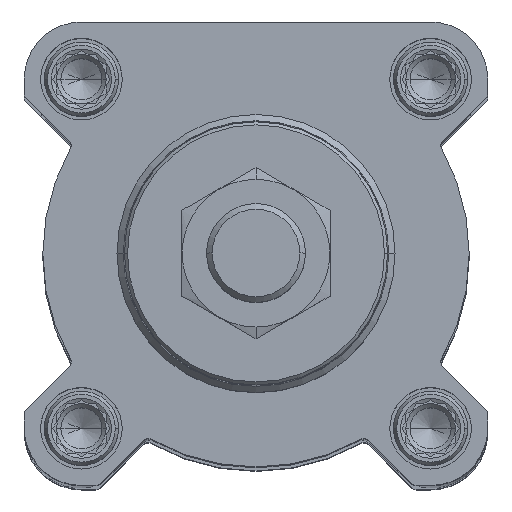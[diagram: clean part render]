
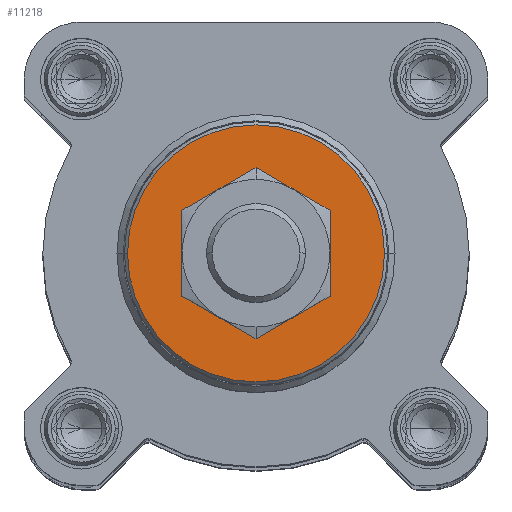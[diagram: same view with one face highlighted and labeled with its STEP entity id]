
A CAD part, top view. The second image highlights one B-rep face of the part: STEP entity #11218.
In plain terms, the highlighted planar face has unit normal (0, 0, 1).
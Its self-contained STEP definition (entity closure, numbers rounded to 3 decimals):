
#396 = VERTEX_POINT ( 'NONE', #1475 ) ;
#1212 = CARTESIAN_POINT ( 'NONE',  ( 0., 0., 27. ) ) ;
#1312 = CIRCLE ( 'NONE', #10347, 10. ) ;
#1475 = CARTESIAN_POINT ( 'NONE',  ( -20.799, 0., 27. ) ) ;
#1487 = AXIS2_PLACEMENT_3D ( 'NONE', #14813, #11785, #18139 ) ;
#1545 = VERTEX_POINT ( 'NONE', #13917 ) ;
#2274 = CIRCLE ( 'NONE', #4848, 20.799 ) ;
#2300 = CARTESIAN_POINT ( 'NONE',  ( 10., 0., 27. ) ) ;
#3663 = VERTEX_POINT ( 'NONE', #15675 ) ;
#4339 = FACE_BOUND ( 'NONE', #19123, .T. ) ;
#4453 = CARTESIAN_POINT ( 'NONE',  ( 0., 0., 27. ) ) ;
#4533 = VERTEX_POINT ( 'NONE', #2300 ) ;
#4848 = AXIS2_PLACEMENT_3D ( 'NONE', #4453, #10521, #12143 ) ;
#5875 = DIRECTION ( 'NONE',  ( -1., 0., 0. ) ) ;
#6200 = AXIS2_PLACEMENT_3D ( 'NONE', #1212, #15142, #7479 ) ;
#7339 = DIRECTION ( 'NONE',  ( -1., 0., 0. ) ) ;
#7479 = DIRECTION ( 'NONE',  ( 0., -1., 0. ) ) ;
#7815 = ORIENTED_EDGE ( 'NONE', *, *, #9664, .T. ) ;
#9557 = EDGE_CURVE ( 'NONE', #396, #3663, #2274, .T. ) ;
#9613 = ORIENTED_EDGE ( 'NONE', *, *, #14721, .F. ) ;
#9664 = EDGE_CURVE ( 'NONE', #4533, #1545, #1312, .T. ) ;
#10206 = CIRCLE ( 'NONE', #1487, 20.799 ) ;
#10221 = CIRCLE ( 'NONE', #15374, 10. ) ;
#10321 = CARTESIAN_POINT ( 'NONE',  ( 0., 0., 27. ) ) ;
#10347 = AXIS2_PLACEMENT_3D ( 'NONE', #10321, #16581, #5875 ) ;
#10521 = DIRECTION ( 'NONE',  ( 0., 0., -1. ) ) ;
#10588 = ORIENTED_EDGE ( 'NONE', *, *, #9557, .F. ) ;
#11218 = ADVANCED_FACE ( 'NONE', ( #14949, #4339 ), #15046, .F. ) ;
#11220 = EDGE_LOOP ( 'NONE', ( #10588, #9613 ) ) ;
#11785 = DIRECTION ( 'NONE',  ( 0., 0., -1. ) ) ;
#12143 = DIRECTION ( 'NONE',  ( -1., 0., 0. ) ) ;
#13091 = DIRECTION ( 'NONE',  ( 0., 0., -1. ) ) ;
#13518 = EDGE_CURVE ( 'NONE', #1545, #4533, #10221, .T. ) ;
#13917 = CARTESIAN_POINT ( 'NONE',  ( -10., 0., 27. ) ) ;
#14721 = EDGE_CURVE ( 'NONE', #3663, #396, #10206, .T. ) ;
#14809 = CARTESIAN_POINT ( 'NONE',  ( 0., 0., 27. ) ) ;
#14813 = CARTESIAN_POINT ( 'NONE',  ( 0., 0., 27. ) ) ;
#14949 = FACE_OUTER_BOUND ( 'NONE', #11220, .T. ) ;
#15046 = PLANE ( 'NONE',  #6200 ) ;
#15142 = DIRECTION ( 'NONE',  ( 0., 0., -1. ) ) ;
#15374 = AXIS2_PLACEMENT_3D ( 'NONE', #14809, #13091, #7339 ) ;
#15675 = CARTESIAN_POINT ( 'NONE',  ( 20.799, 0., 27. ) ) ;
#16581 = DIRECTION ( 'NONE',  ( 0., 0., -1. ) ) ;
#17559 = ORIENTED_EDGE ( 'NONE', *, *, #13518, .T. ) ;
#18139 = DIRECTION ( 'NONE',  ( -1., 0., 0. ) ) ;
#19123 = EDGE_LOOP ( 'NONE', ( #17559, #7815 ) ) ;
